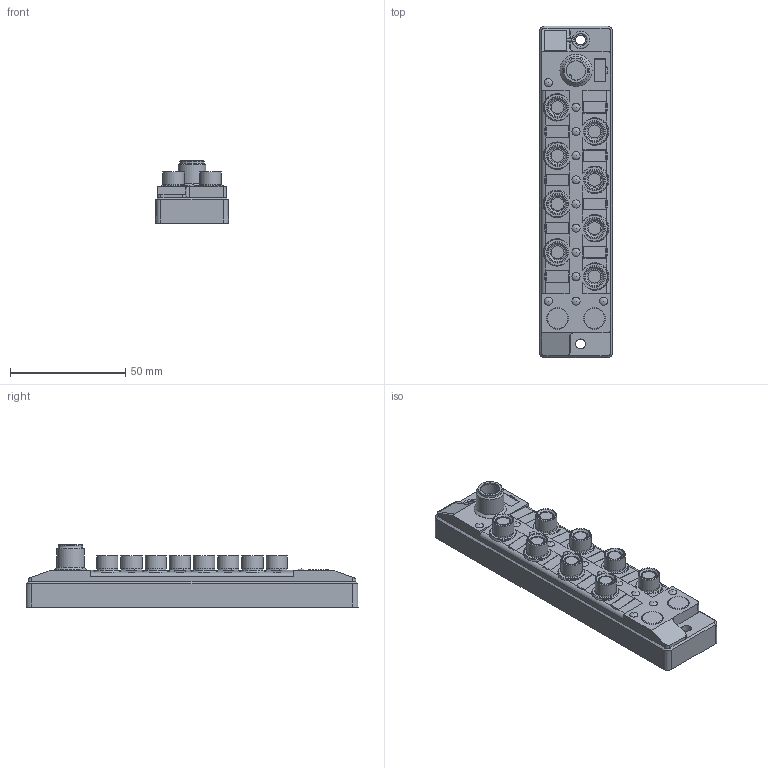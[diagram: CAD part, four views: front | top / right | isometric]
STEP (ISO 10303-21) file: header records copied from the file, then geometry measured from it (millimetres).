
FILE_DESCRIPTION(/* description */ (''),/* implementation_level */ '2;1');
FILE_NAME(/* name */ '3DCAD_MD_742_11_82IO3_12.stp',/* time_stamp */ '2020-11-04T13:52:03+01:00',/* author */ ('CC2'),/* organization */ ('Leuze electronic'),/* preprocessor_version */ 'ST-DEVELOPER v16',/* originating_system */ 'SIEMENS PLM Software NX 11.0',/* authorisation */ '');
FILE_SCHEMA (('AUTOMOTIVE_DESIGN { 1 0 10303 214 3 1 1 1 }'));
Length unit declared in the file: millimetre
Products named in the file (1): 19-103227_00_1-3DCAD_MD_742_11_82IO3_12
Bounding box: 31.79 x 144.19 x 27 mm (x, y, z)
Volume: 71337 mm3; surface area: 19841.1 mm2
Topology: 1 solids, 1 shells, 404 faces, 1033 edges, 663 vertices
Faces by surface type: plane 243, cylinder 86, cone 50, torus 13, sphere 12
Full cylindrical faces by diameter (mm): 1 x1, 4.3 x2, 5.4 x1, 5.65 x8, 6.647 x8, 8.375 x1, 8.5 x1, 9.2 x8, 9.21 x2, 9.44 x2, 10.65 x1, 12 x1, 14 x1
Entity records: 11739 total; most frequent: CARTESIAN_POINT 2215, DIRECTION 1992, ORIENTED_EDGE 1860, EDGE_CURVE 930, AXIS2_PLACEMENT_3D 701, VERTEX_POINT 639, LINE 590, VECTOR 590
